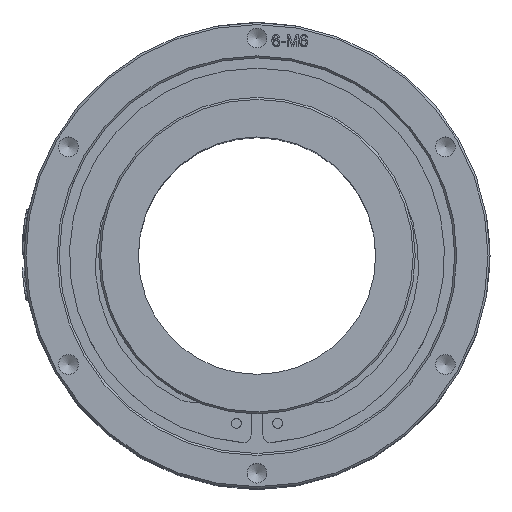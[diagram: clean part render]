
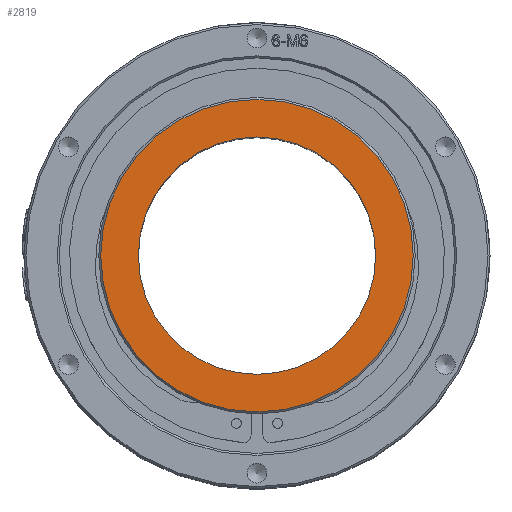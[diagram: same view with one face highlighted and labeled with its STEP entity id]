
A CAD part, top view. The second image highlights one B-rep face of the part: STEP entity #2819.
In plain terms, the highlighted planar face has unit normal (0, 0, 1).
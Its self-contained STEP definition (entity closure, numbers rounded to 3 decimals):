
#489=FACE_BOUND('',#7566,.T.);
#490=FACE_BOUND('',#7567,.T.);
#772=CIRCLE('',#25532,30.);
#773=CIRCLE('',#25534,39.5);
#1291=PLANE('',#25535);
#2819=ADVANCED_FACE('',(#489,#490),#1291,.F.);
#7566=EDGE_LOOP('',(#12698));
#7567=EDGE_LOOP('',(#12699));
#12698=ORIENTED_EDGE('',*,*,#20456,.F.);
#12699=ORIENTED_EDGE('',*,*,#20457,.F.);
#17131=VERTEX_POINT('',#46803);
#17132=VERTEX_POINT('',#46806);
#20456=EDGE_CURVE('',#17131,#17131,#772,.T.);
#20457=EDGE_CURVE('',#17132,#17132,#773,.T.);
#25532=AXIS2_PLACEMENT_3D('',#46802,#28126,#28127);
#25534=AXIS2_PLACEMENT_3D('',#46805,#28130,#28131);
#25535=AXIS2_PLACEMENT_3D('',#46807,#28132,#28133);
#28126=DIRECTION('',(0.,0.,1.));
#28127=DIRECTION('',(1.,0.,0.));
#28130=DIRECTION('',(0.,0.,-1.));
#28131=DIRECTION('',(-1.,0.,0.));
#28132=DIRECTION('',(0.,0.,-1.));
#28133=DIRECTION('',(-1.,0.,0.));
#46802=CARTESIAN_POINT('',(0.,0.,121.5));
#46803=CARTESIAN_POINT('',(30.,0.,121.5));
#46805=CARTESIAN_POINT('',(0.,0.,121.5));
#46806=CARTESIAN_POINT('',(-39.5,0.,121.5));
#46807=CARTESIAN_POINT('',(0.,0.,121.5));
